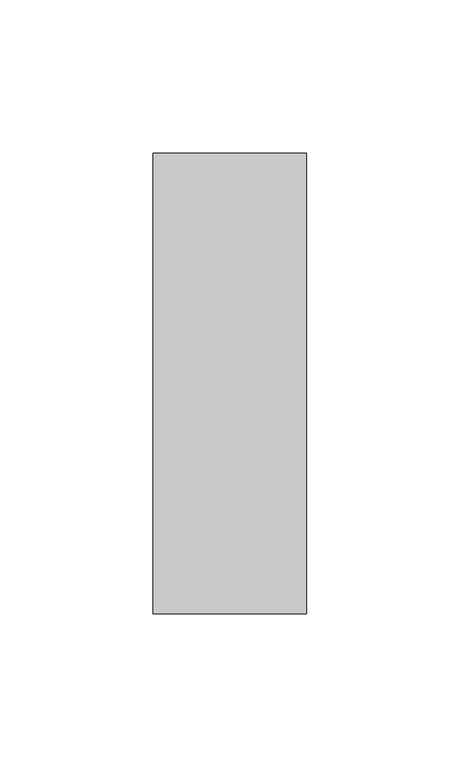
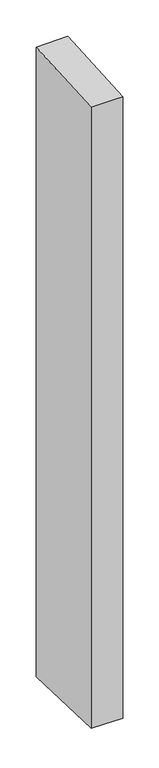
"""IFC4 building model written with IfcOpenShell, lengths in millimetres: member geometry, Прямоугольный импост : 50 x 150 мм."""

import ifcopenshell
import ifcopenshell.guid

model = None  # the IFC model being written
_history = None  # IfcOwnerHistory: only IFC2X3 demands one
_inside = {}  # id of a spatial element -> (the spatial element, [elements in it])
_under = {}  # id of a project, library or spatial element -> (it, [spatial elements below it])
_declared = {}  # id of a project -> (the project, [libraries it declares])
_typed = {}  # id of a type object -> (the type object, [elements of that type])
_made_of = {}  # id of a material, layer set ... -> (it, [elements and type objects made of it])


def new_model(schema):
    """Start an empty IFC model of exactly this schema.

    Asked for "IFC4X3", IfcOpenShell would pick the latest addendum, in which some entities
    have other attributes; the version numbers below select the first issue.
    IFC2X3 requires an IfcOwnerHistory on every rooted entity: one is made here for all.
    """
    global model, _history
    if schema == "IFC4X3":
        model = ifcopenshell.file(schema_version=(4, 3, 0, 0))
    else:
        model = ifcopenshell.file(schema=schema)
    _inside.clear()
    _under.clear()
    _declared.clear()
    _typed.clear()
    _made_of.clear()
    _history = None
    if model.schema == "IFC2X3":
        org = make("IfcOrganization", Name="unknown")
        user = make(
            "IfcPersonAndOrganization",
            ThePerson=make("IfcPerson", FamilyName="unknown"),
            TheOrganization=org,
        )
        app = make(
            "IfcApplication",
            ApplicationDeveloper=org,
            Version="unknown",
            ApplicationFullName="unknown",
            ApplicationIdentifier="unknown",
        )
        _history = make(
            "IfcOwnerHistory",
            OwningUser=user,
            OwningApplication=app,
            ChangeAction="ADDED",
            CreationDate=0,
        )
    return model


def make(cls, **values):
    """One entity of the class cls with the attributes given. An attribute that is None is left unset."""
    return model.create_entity(
        cls, **{name: value for name, value in values.items() if value is not None}
    )


def rooted(cls, **values):
    """An entity with a GlobalId (a new one), such as an element, a storey or a relation."""
    return make(cls, GlobalId=ifcopenshell.guid.new(), OwnerHistory=_history, **values)


def si_unit(unit_type, name, prefix=None):
    """IfcSIUnit, for example si_unit("LENGTHUNIT", "METRE", prefix="MILLI")."""
    return make("IfcSIUnit", UnitType=unit_type, Prefix=prefix, Name=name)


def assignment(units):
    """IfcUnitAssignment: the units of a project."""
    return None if units is None else make("IfcUnitAssignment", Units=units)


def point(xyz):
    """IfcCartesianPoint."""
    return None if xyz is None else make("IfcCartesianPoint", Coordinates=xyz)


def direction(xyz):
    """IfcDirection."""
    return None if xyz is None else make("IfcDirection", DirectionRatios=xyz)


def frame(location, z_axis=None, x_axis=None):
    """IfcAxis2Placement3D, a coordinate frame: its origin and axes. An axis left out is left unset."""
    return make(
        "IfcAxis2Placement3D",
        Location=point(location),
        Axis=direction(z_axis),
        RefDirection=direction(x_axis),
    )


def origin():
    """The frame at (0, 0, 0) with its axes left unset."""
    return frame((0.0, 0.0, 0.0))


def place(relative_to, where):
    """IfcLocalPlacement: puts the frame where relative to a parent placement (None: the world)."""
    return make(
        "IfcLocalPlacement", PlacementRelTo=relative_to, RelativePlacement=where
    )


def context(
    kind, dimensions, precision=None, world=None, true_north=None, identifier=None
):
    """IfcGeometricRepresentationContext, for example the 3D "Model" context."""
    return make(
        "IfcGeometricRepresentationContext",
        ContextIdentifier=identifier,
        ContextType=kind,
        CoordinateSpaceDimension=dimensions,
        Precision=precision,
        WorldCoordinateSystem=world,
        TrueNorth=true_north,
    )


def project(units=None, contexts=None):
    """IfcProject with its units and contexts."""
    return rooted(
        "IfcProject",
        Name="project",
        RepresentationContexts=contexts,
        UnitsInContext=assignment(units),
    )


def spatial(cls, under=None, at=None, **own):
    """A site, building, storey or space (cls), placed at a placement, below another one or the project."""
    s = rooted(cls, ObjectPlacement=at, **own)
    if under is not None:
        _under.setdefault(under.id(), (under, []))[1].append(s)
    return s


def faces_of(points, faces, orient=None, outer=None):
    """IfcFace entities. A face is a list of loops; a loop is a list of indices into points, from 0.

    orient and outer hold one flag for each loop. By default every Orientation is true, the
    first loop of a face is its IfcFaceOuterBound and the others are IfcFaceBound.
    """
    made = []
    for i, loops in enumerate(faces):
        bounds = []
        for j, loop in enumerate(loops):
            is_outer = j == 0 if outer is None else outer[i][j]
            bounds.append(
                make(
                    "IfcFaceOuterBound" if is_outer else "IfcFaceBound",
                    Bound=make("IfcPolyLoop", Polygon=[points[k] for k in loop]),
                    Orientation=True if orient is None else orient[i][j],
                )
            )
        made.append(make("IfcFace", Bounds=bounds))
    return made


def faceted_brep(points, faces, orient=None, outer=None, voids=None):
    """IfcFacetedBrep: a solid bounded by flat faces; with voids (closed shells), ...WithVoids."""
    shared = [point(p) for p in points]
    hull = make("IfcClosedShell", CfsFaces=faces_of(shared, faces, orient, outer))
    if voids is None:
        return make("IfcFacetedBrep", Outer=hull)
    return make(
        "IfcFacetedBrepWithVoids",
        Outer=hull,
        Voids=[
            make(cls, CfsFaces=faces_of(shared, fs, o, b)) for cls, fs, o, b in voids
        ],
    )


def shape(context_of_items, identifier, shape_type, items):
    """IfcShapeRepresentation: the items that make up one representation, for example the "Body"."""
    return make(
        "IfcShapeRepresentation",
        ContextOfItems=context_of_items,
        RepresentationIdentifier=identifier,
        RepresentationType=shape_type,
        Items=items,
    )


def source(mapping_origin, context_of_items, identifier, shape_type, items):
    """IfcRepresentationMap: a shape defined once, which mapped items show again and again."""
    return make(
        "IfcRepresentationMap",
        MappingOrigin=mapping_origin,
        MappedRepresentation=shape(context_of_items, identifier, shape_type, items),
    )


def transform(
    local_origin,
    x_axis=None,
    y_axis=None,
    z_axis=None,
    scale=None,
    scale2=None,
    scale3=None,
    uniform=True,
):
    """IfcCartesianTransformationOperator3D, or its non-uniform kind. x_axis, y_axis, z_axis: its Axis1, 2, 3."""
    if uniform:
        return make(
            "IfcCartesianTransformationOperator3D",
            Axis1=direction(x_axis),
            Axis2=direction(y_axis),
            LocalOrigin=point(local_origin),
            Scale=scale,
            Axis3=direction(z_axis),
        )
    return make(
        "IfcCartesianTransformationOperator3DnonUniform",
        Axis1=direction(x_axis),
        Axis2=direction(y_axis),
        LocalOrigin=point(local_origin),
        Scale=scale,
        Axis3=direction(z_axis),
        Scale2=scale2,
        Scale3=scale3,
    )


def mapped(mapping_source, mapping_target):
    """IfcMappedItem: shows the shape of a source again, moved by a transform."""
    return make(
        "IfcMappedItem", MappingSource=mapping_source, MappingTarget=mapping_target
    )


def made_of(thing, what):
    """Note that an element or type object is made of a material, layer set ...; save() writes the relation."""
    if what is not None:
        _made_of.setdefault(what.id(), (what, []))[1].append(thing)
    return thing


def element(
    cls,
    number,
    at=None,
    inside=None,
    cuts=None,
    type_object=None,
    material=None,
    context=None,
    identifier="Body",
    shape_type=None,
    held_by="IfcProductDefinitionShape",
    body=None,
    shapes=None,
    **own,
):
    """One element of the class cls, such as IfcWall. Its Tag is "e" and its number.

    at: its placement. inside: the storey or other place that contains it. cuts: it is an
    opening in that element (IfcRelVoidsElement). A single representation is given by context,
    identifier, shape_type and body (its items); several are given by shapes. held_by: the class
    of the entity that holds the representations. save() writes the other relations.
    """
    e = rooted(cls, Tag="e%d" % number, ObjectPlacement=at, **own)
    if body is not None:
        shapes = [shape(context, identifier, shape_type, body)]
    if shapes is not None:
        e.Representation = make(held_by, Representations=shapes)
    if inside is not None:
        _inside.setdefault(inside.id(), (inside, []))[1].append(e)
    if cuts is not None:
        rooted(
            "IfcRelVoidsElement", RelatingBuildingElement=cuts, RelatedOpeningElement=e
        )
    if type_object is not None:
        _typed.setdefault(type_object.id(), (type_object, []))[1].append(e)
    return made_of(e, material)


def aggregate(whole, parts):
    """IfcRelAggregates: a whole, such as a stair, and the parts it consists of."""
    return rooted("IfcRelAggregates", RelatingObject=whole, RelatedObjects=parts)


def save(model, path):
    """Write the relations noted so far, then the file.

    IfcRelAggregates (storeys below a building ...), IfcRelContainedInSpatialStructure (elements
    in a storey), IfcRelDefinesByType, IfcRelAssociatesMaterial and IfcRelDeclares: one each for
    every whole, place, type object, material and project.
    """
    for whole, parts in _under.values():
        aggregate(whole, parts)
    for where, things in _inside.values():
        rooted(
            "IfcRelContainedInSpatialStructure",
            RelatedElements=things,
            RelatingStructure=where,
        )
    for kind, things in _typed.values():
        rooted("IfcRelDefinesByType", RelatedObjects=things, RelatingType=kind)
    for what, things in _made_of.values():
        rooted("IfcRelAssociatesMaterial", RelatedObjects=things, RelatingMaterial=what)
    for by, libraries in _declared.values():
        rooted("IfcRelDeclares", RelatingContext=by, RelatedDefinitions=libraries)
    model.write(path)


def member_1c6d16c4(model_context):
    return source(origin(), model_context, "Body", "Brep", [
        faceted_brep([(-25.0, 75.0, 4.6618028), (25.0, 75.0, 5.2688263), (25.0, 75.0, -1051.662255), (-25.0, 75.0, -1051.0985514), (-25.0, -75.0, -5.2688263), (-25.0, -75.0, -1046.4018759), (25.0, -75.0, -4.6618028), (25.0, -75.0, -1046.9655795)], [[[0, 1, 2, 3]], [[4, 0, 3, 5]], [[6, 4, 5, 7]], [[1, 6, 7, 2]], [[1, 0, 4, 6]], [[2, 7, 5, 3]]]),
    ])


if __name__ == "__main__":
    model = new_model("IFC4")
    model_context = context("Model", 3, world=origin())
    ifc_project = project(units=[si_unit("LENGTHUNIT", "METRE", prefix="MILLI")], contexts=[model_context])
    site = spatial("IfcSite", under=ifc_project)
    building = spatial("IfcBuilding", under=site)
    placement = place(None, origin())
    member_shape = member_1c6d16c4(model_context)
    element("IfcMember", 1, ObjectType="Прямоугольный импост : 50 x 150 мм", at=placement, inside=building, context=model_context, shape_type="MappedRepresentation", body=[
        mapped(member_shape, transform((0.0, 0.0, 0.0), x_axis=(1.0, 0.0, 0.0), y_axis=(0.0, 1.0, 0.0), z_axis=(0.0, 0.0, 1.0))),
    ])
    save(model, "model.ifc")
